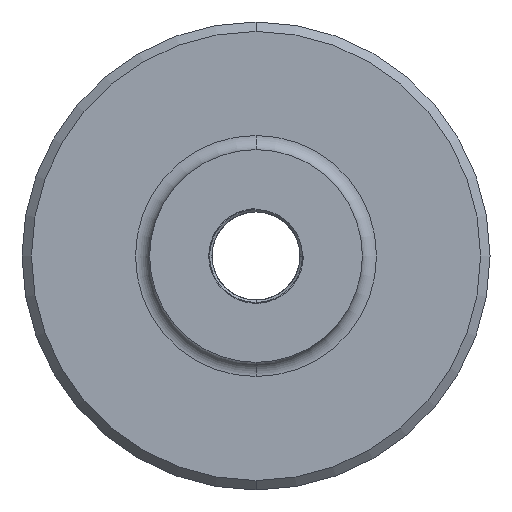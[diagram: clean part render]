
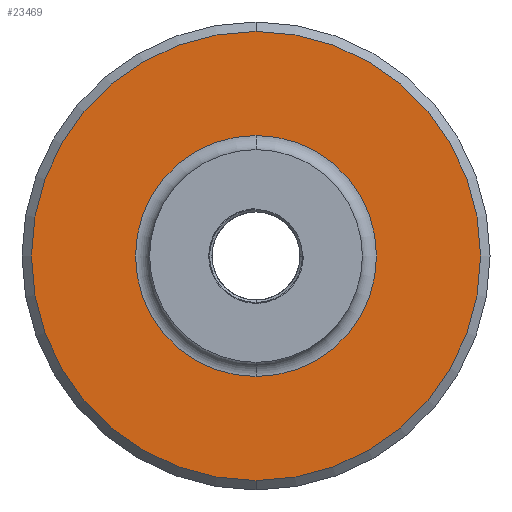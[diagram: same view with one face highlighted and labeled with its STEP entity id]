
A CAD part, front view. The second image highlights one B-rep face of the part: STEP entity #23469.
In plain terms, the highlighted planar face has unit normal (0, -1, 0).
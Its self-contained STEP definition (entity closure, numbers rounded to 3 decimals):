
#668 = DIRECTION ( 'NONE',  ( 0., -1., 0. ) ) ;
#5666 = EDGE_LOOP ( 'NONE', ( #66832, #87917 ) ) ;
#11824 = CARTESIAN_POINT ( 'NONE',  ( 0., -14., 0. ) ) ;
#12321 = EDGE_CURVE ( 'NONE', #34408, #29574, #55933, .T. ) ;
#14159 = EDGE_CURVE ( 'NONE', #74377, #77622, #87440, .T. ) ;
#17015 = FACE_OUTER_BOUND ( 'NONE', #5666, .T. ) ;
#17531 = DIRECTION ( 'NONE',  ( 0., 0., 1. ) ) ;
#18540 = PLANE ( 'NONE',  #83545 ) ;
#22881 = AXIS2_PLACEMENT_3D ( 'NONE', #24854, #56509, #71482 ) ;
#23469 = ADVANCED_FACE ( 'NONE', ( #17015, #25318 ), #18540, .F. ) ;
#24272 = CARTESIAN_POINT ( 'NONE',  ( 0., -14., 0. ) ) ;
#24854 = CARTESIAN_POINT ( 'NONE',  ( 0., -14., 0. ) ) ;
#25318 = FACE_BOUND ( 'NONE', #96357, .T. ) ;
#29574 = VERTEX_POINT ( 'NONE', #64294 ) ;
#30238 = DIRECTION ( 'NONE',  ( 0., 0., 1. ) ) ;
#34408 = VERTEX_POINT ( 'NONE', #39400 ) ;
#39400 = CARTESIAN_POINT ( 'NONE',  ( 0., -14., 47.5 ) ) ;
#42384 = DIRECTION ( 'NONE',  ( 0., -1., 0. ) ) ;
#47532 = CARTESIAN_POINT ( 'NONE',  ( 0., -14., 25.5 ) ) ;
#52275 = DIRECTION ( 'NONE',  ( 0., 0., 1. ) ) ;
#55116 = CARTESIAN_POINT ( 'NONE',  ( 0., -14., 0. ) ) ;
#55547 = AXIS2_PLACEMENT_3D ( 'NONE', #55116, #668, #30238 ) ;
#55933 = CIRCLE ( 'NONE', #85737, 47.5 ) ;
#55937 = CARTESIAN_POINT ( 'NONE',  ( 0., -14., 0. ) ) ;
#56509 = DIRECTION ( 'NONE',  ( 0., 1., 0. ) ) ;
#57348 = EDGE_CURVE ( 'NONE', #77622, #74377, #87806, .T. ) ;
#60064 = DIRECTION ( 'NONE',  ( 0., 1., 0. ) ) ;
#64294 = CARTESIAN_POINT ( 'NONE',  ( 0., -14., -47.5 ) ) ;
#66832 = ORIENTED_EDGE ( 'NONE', *, *, #12321, .T. ) ;
#68932 = CARTESIAN_POINT ( 'NONE',  ( 0., -14., -25.5 ) ) ;
#71482 = DIRECTION ( 'NONE',  ( 0., 0., 1. ) ) ;
#74377 = VERTEX_POINT ( 'NONE', #68932 ) ;
#75100 = EDGE_CURVE ( 'NONE', #29574, #34408, #100210, .T. ) ;
#77622 = VERTEX_POINT ( 'NONE', #47532 ) ;
#78890 = ORIENTED_EDGE ( 'NONE', *, *, #57348, .T. ) ;
#81777 = DIRECTION ( 'NONE',  ( 0., 0., 1. ) ) ;
#82814 = AXIS2_PLACEMENT_3D ( 'NONE', #11824, #60064, #52275 ) ;
#83545 = AXIS2_PLACEMENT_3D ( 'NONE', #55937, #88590, #17531 ) ;
#85101 = ORIENTED_EDGE ( 'NONE', *, *, #14159, .T. ) ;
#85737 = AXIS2_PLACEMENT_3D ( 'NONE', #24272, #42384, #81777 ) ;
#87440 = CIRCLE ( 'NONE', #22881, 25.5 ) ;
#87806 = CIRCLE ( 'NONE', #82814, 25.5 ) ;
#87917 = ORIENTED_EDGE ( 'NONE', *, *, #75100, .T. ) ;
#88590 = DIRECTION ( 'NONE',  ( 0., 1., 0. ) ) ;
#96357 = EDGE_LOOP ( 'NONE', ( #78890, #85101 ) ) ;
#100210 = CIRCLE ( 'NONE', #55547, 47.5 ) ;
